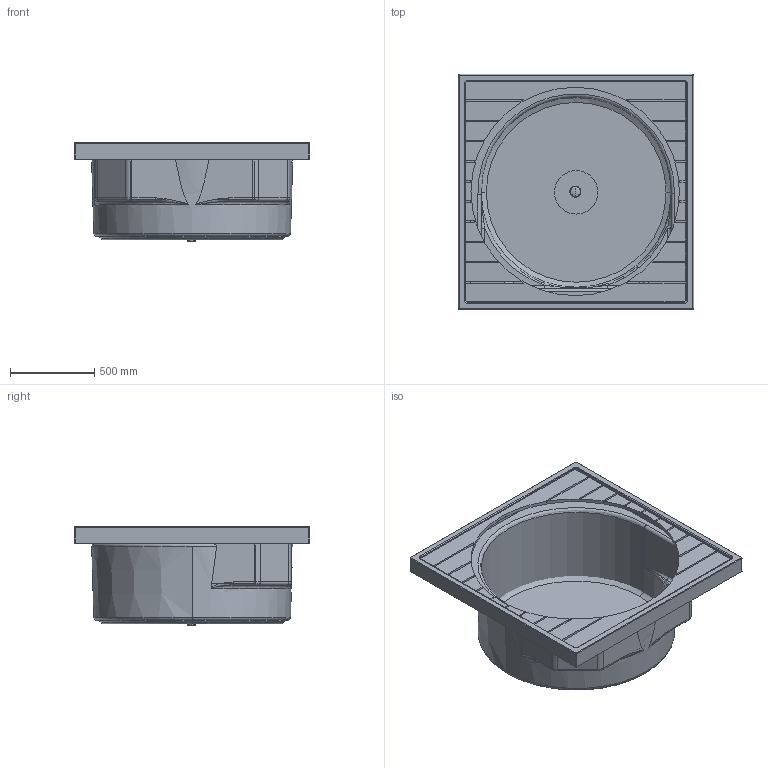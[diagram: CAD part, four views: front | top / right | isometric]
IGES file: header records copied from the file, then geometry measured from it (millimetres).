
Global section: file name: No Iges File Name specified; native system: Autodesk Inventor 2009; preprocessor: AutoDesk Inventor Iges Exporter R2009; author: Andreas; date: 20090219.160621; units: millimetre
Bounding box: 1400 x 1400 x 589.4 mm (x, y, z)
Volume: 89732711.1 mm3; surface area: 16343291.8 mm2
Topology: 7 solids, 7 shells, 353 faces, 964 edges, 589 vertices
Faces by surface type: plane 156, cylinder 83, revolution 49, torus 28, bspline 27, cone 6, sphere 4
